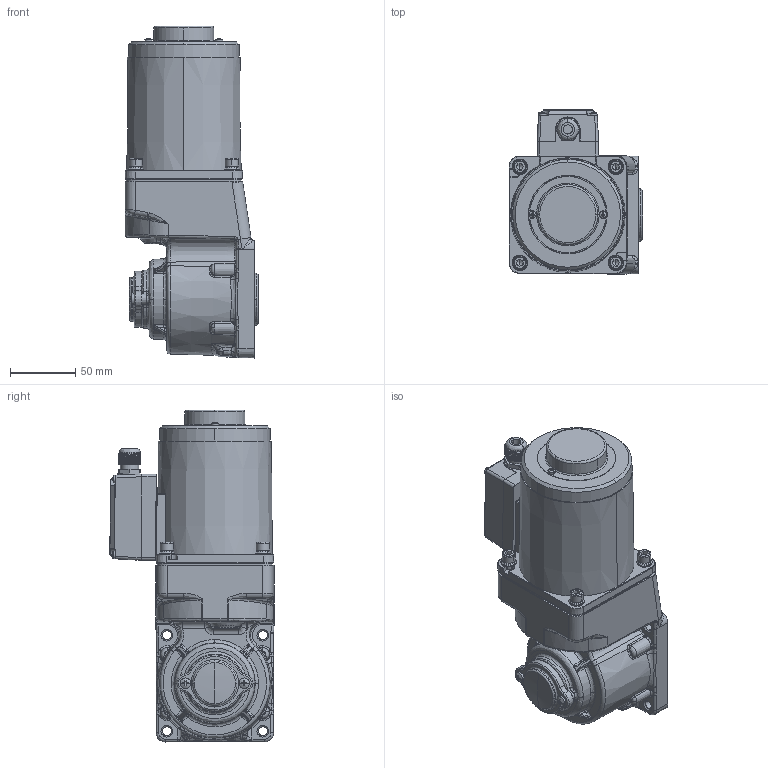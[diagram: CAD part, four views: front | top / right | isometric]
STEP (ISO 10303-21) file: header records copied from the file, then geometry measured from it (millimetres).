
FILE_DESCRIPTION (( 'STEP AP203' ), '1' );
FILE_NAME ('5IK40RGU-CT(5GU3RC-180RC)ÐÂ.STEP', '2023-08-17T07:01:54', ( 'Windows User' ), ( 'P R C' ), 'SwSTEP 2.0', 'SolidWorks 2019', '' );
FILE_SCHEMA (( 'CONFIG_CONTROL_DESIGN' ));
Products named in the file (9): 90__________^5IK40RGU-CT(5GU3RC-180RC)陔(2)_5IK40RGU-CT(5GU3RC-180RC)陔; 90__________-0^5IK40RGU-CT(5GU3RC-180RC)陔(2)_5IK40RGU-CT(5GU3RC-180RC)陔; cross recessed pan head screws gb_GB_CROSS_SCREWS_TYPE1 M4X6-6  H type-N^5IK40RGU-CT(5GU3RC-180RC)ÐÂ(2)_5IK40RGU-CT(5GU3RC-180RC)ÐÂ; 5IK40RGU-CT(5GU3RC-180RC)陔; ZD-5GU50RC-505-003______1^5IK40RGU-CT(5GU3RC-180RC)陔(2)_5IK40RGU-CT(5GU3RC-180RC)陔; hexagon socket head cap screws gb_GB_FASTENER_SCREWS_HSHCS M5X12-N^5IK40RGU-CT(5GU3RC-180RC)ÐÂ(2)_5IK40RGU-CT(5GU3RC-180RC)ÐÂ; 5IK40RGU-CT(5GU3RC-180RC)陔(2)^5IK40RGU-CT(5GU3RC-180RC)陔; 90RT____________^5IK40RGU-CT(5GU3RC-180RC)陔(2)_5IK40RGU-CT(5GU3RC-180RC)陔; 5IK40RGU-CT(5GU3RC-180RC)^5IK40RGU-CT(5GU3RC-180RC)ÐÂ(2)_5IK40RGU-CT(5GU3RC-180RC)ÐÂ
Assembly tree (12 placements, depth 3):
  5IK40RGU-CT(5GU3RC-180RC)陔
    5IK40RGU-CT(5GU3RC-180RC)陔(2)^5IK40RGU-CT(5GU3RC-180RC)陔
      90__________^5IK40RGU-CT(5GU3RC-180RC)陔(2)_5IK40RGU-CT(5GU3RC-180RC)陔
      90RT____________^5IK40RGU-CT(5GU3RC-180RC)陔(2)_5IK40RGU-CT(5GU3RC-180RC)陔
      90__________-0^5IK40RGU-CT(5GU3RC-180RC)陔(2)_5IK40RGU-CT(5GU3RC-180RC)陔
      hexagon socket head cap screws gb_GB_FASTENER_SCREWS_HSHCS M5X12-N^5IK40RGU-CT(5GU3RC-180RC)ÐÂ(2)_5IK40RGU-CT(5GU3RC-180RC)ÐÂ  x4
      ZD-5GU50RC-505-003______1^5IK40RGU-CT(5GU3RC-180RC)陔(2)_5IK40RGU-CT(5GU3RC-180RC)陔
      cross recessed pan head screws gb_GB_CROSS_SCREWS_TYPE1 M4X6-6  H type-N^5IK40RGU-CT(5GU3RC-180RC)ÐÂ(2)_5IK40RGU-CT(5GU3RC-180RC)ÐÂ  x2
      5IK40RGU-CT(5GU3RC-180RC)^5IK40RGU-CT(5GU3RC-180RC)ÐÂ(2)_5IK40RGU-CT(5GU3RC-180RC)ÐÂ
Bounding box: 102.5 x 125.86 x 254.29 mm (x, y, z)
Volume: 1570530.1 mm3; surface area: 195901.2 mm2
Topology: 35 solids, 35 shells, 2875 faces, 7123 edges, 4230 vertices
Faces by surface type: cone 837, cylinder 696, plane 691, bspline 562, torus 83, sphere 6
Entity records: 115998 total; most frequent: CARTESIAN_POINT 54108, ORIENTED_EDGE 13470, DIRECTION 11944, EDGE_CURVE 6735, AXIS2_PLACEMENT_3D 4798, VERTEX_POINT 4087, EDGE_LOOP 2892, FACE_OUTER_BOUND 2775
